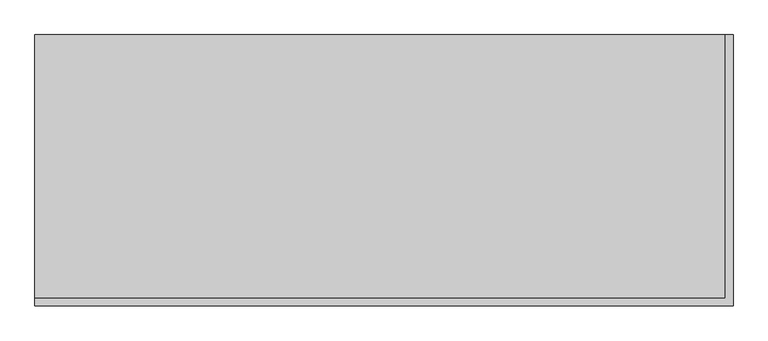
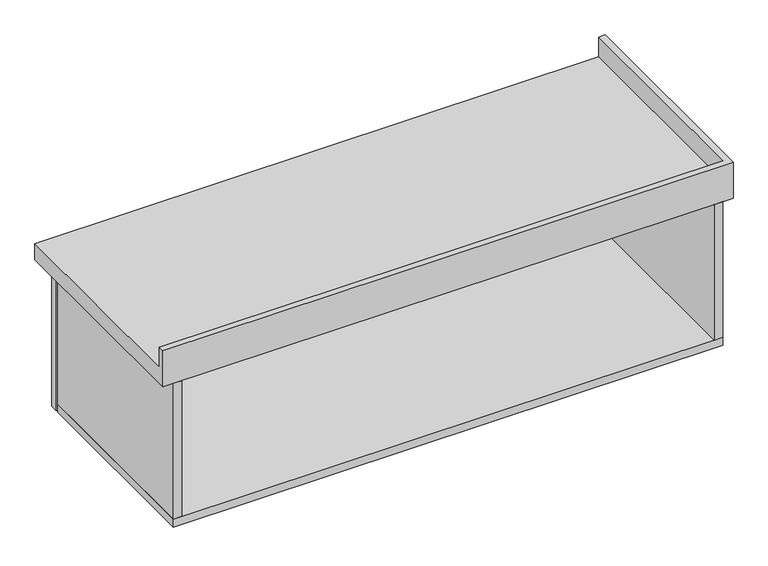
"""IFC4 building model written with IfcOpenShell, lengths in millimetres: furniture geometry, Mueble colgado 2 cajones al lado - lavabo sobreponer : MB8  mueble baño colgado-2 cajones al lado 151."""

from ifc_helpers import new_model, si_unit, frame, origin, place, context, project, spatial, polyline, outline, extrude, faceted_brep, source, transform, mapped, element, save


def furniture_cee3b189(model_context):
    return source(origin(), model_context, "Body", "SolidModel", [
        extrude(outline(polyline([(-525.0, 570.0), (-525.0, 590.0), (120.0, 590.0), (120.0, 570.0), (-525.0, 570.0)])), frame((0.0, 0.0, 350.0), z_axis=(0.0, 0.0, 1.0), x_axis=(1.0, 0.0, 0.0)), (0.0, 0.0, 1.0), 350.0),
        faceted_brep([(785.0, 105.0, 800.0), (785.0, 105.0, 750.0), (-550.0, 105.0, 750.0), (-550.0, 105.0, 800.0), (-550.0, 90.0, 800.0), (800.0, 90.0, 800.0), (800.0, 615.0, 800.0), (785.0, 615.0, 800.0), (-550.0, 615.0, 750.0), (-550.0, 615.0, 710.0), (-550.0, 90.0, 710.0), (800.0, 90.0, 710.0), (785.0, 615.0, 750.0), (800.0, 615.0, 710.0)], [[[0, 1, 2, 3]], [[0, 3, 4, 5, 6, 7]], [[3, 2, 8, 9, 10, 4]], [[5, 4, 10, 11]], [[1, 0, 7, 12]], [[13, 6, 5, 11]], [[8, 2, 1, 12]], [[13, 11, 10, 9]], [[7, 6, 13, 9, 8, 12]]]),
        extrude(outline(polyline([(775.0, 590.0), (775.0, 570.0), (130.0, 570.0), (130.0, 590.0), (775.0, 590.0)])), frame((0.0, 0.0, 350.0), z_axis=(0.0, 0.0, 1.0), x_axis=(1.0, 0.0, 0.0)), (0.0, 0.0, 1.0), 350.0),
        extrude(outline(polyline([(775.0, 90.0), (755.0, 90.0), (755.0, 565.0), (775.0, 565.0), (775.0, 90.0)])), frame((0.0, 0.0, 370.0), z_axis=(0.0, 0.0, 1.0), x_axis=(1.0, 0.0, 0.0)), (0.0, 0.0, 1.0), 340.0),
        extrude(outline(polyline([(-505.0, 90.0), (-525.0, 90.0), (-525.0, 565.0), (-505.0, 565.0), (-505.0, 90.0)])), frame((0.0, 0.0, 370.0), z_axis=(0.0, 0.0, 1.0), x_axis=(1.0, 0.0, 0.0)), (0.0, 0.0, 1.0), 340.0),
        extrude(outline(polyline([(775.0, 565.0), (775.0, 90.0), (-525.0, 90.0), (-525.0, 565.0), (775.0, 565.0)])), frame((0.0, 0.0, 350.0), z_axis=(0.0, 0.0, 1.0), x_axis=(1.0, 0.0, 0.0)), (0.0, 0.0, 1.0), 20.0),
    ])


if __name__ == "__main__":
    model = new_model("IFC4")
    model_context = context("Model", 3, world=origin())
    ifc_project = project(units=[si_unit("LENGTHUNIT", "METRE", prefix="MILLI")], contexts=[model_context])
    site = spatial("IfcSite", under=ifc_project)
    building = spatial("IfcBuilding", under=site)
    placement = place(None, origin())
    furniture_shape = furniture_cee3b189(model_context)
    element("IfcFurniture", 1, ObjectType="Mueble colgado 2 cajones al lado - lavabo sobreponer : MB8  mueble baño colgado-2 cajones al lado 151", at=placement, inside=building, context=model_context, shape_type="MappedRepresentation", body=[
        mapped(furniture_shape, transform((0.0, 0.0, 0.0), x_axis=(1.0, 0.0, 0.0), y_axis=(0.0, 1.0, 0.0), z_axis=(0.0, 0.0, 1.0))),
    ])
    save(model, "model.ifc")
